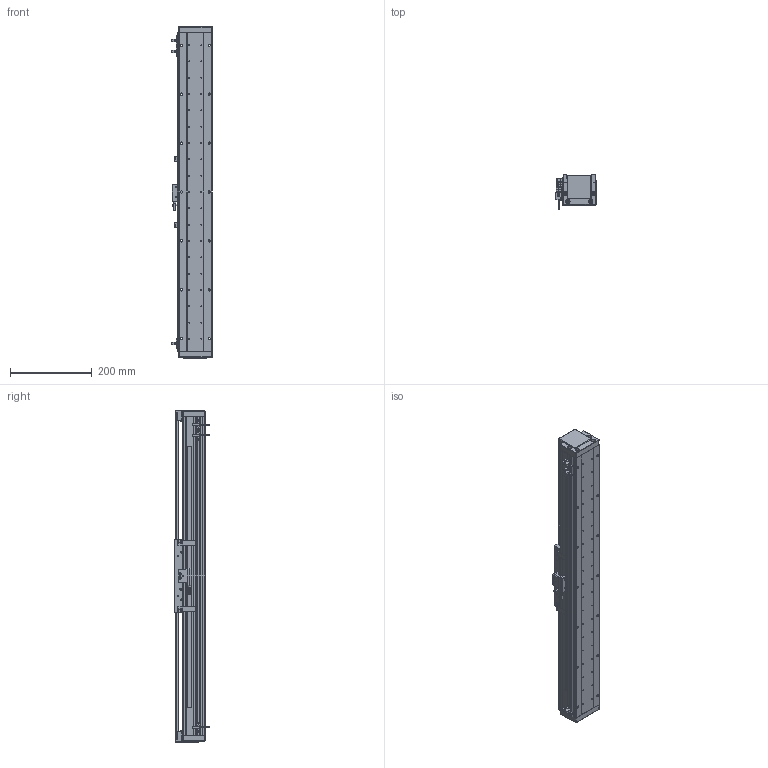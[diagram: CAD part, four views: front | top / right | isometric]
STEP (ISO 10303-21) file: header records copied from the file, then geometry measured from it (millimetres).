
FILE_DESCRIPTION (( 'STEP AP203' ), '1' );
FILE_NAME ('DA-A82-B2-T560-C010-0.2 眻盄萇儂.STEP', '2025-08-13T03:05:32', ( '' ), ( '' ), 'SwSTEP 2.0', 'SolidWorks 2019', '' );
FILE_SCHEMA (( 'CONFIG_CONTROL_DESIGN' ));
Length unit declared in the file: millimetre
Products named in the file (21): 复件 DA95-GT-T-00 底座钢轨^IU-AU82-L 底座导轨; 葩璃 鞠褒情蹟譫 M3^DA-A82-B2-T-C010-0.2; AU82-HT-M-00 賑雄怢啣; 复件 DA82-DG-H-N-00 端盖^DA-A82-B2-T-C010-0.2(默认_按加工_); 葩璃 DA60-DMT-DTJ-00 黍杅芛盓殤^DA-A82-B2-T-C010-0.2; 葩璃 PM-T45^DA-A82-B2-T-C010-0.2; IU-AU82-L-00 菁釱(L780); IU-AU82-L 菁釱絳寢; 复件 复件 DA82-XJ-00 缓冲橡胶^DA-A82-B2-T-C010-0.2; 复件 纯铜油杯 6x6mm^AU82-M 滚珠滑台; 葩璃 DMT-010 1米m 0.2M^DA-A82-B2-T-C010-0.2; 葩璃 DA82-T-002-00 裔啣^DA-A82-B2-T-C010-0.2; AU82-M-00 珨极趙賑雄怢啣; DA-A82-B2-T560-C010-0.2 眻盄萇儂; DA-A60-GYP-DMT-00 光电感应片^DA-A82-B2-T-C010-0.2(默认); 复件 DA95-B2-GT-00 滑块钢轨^AU82-M-00 一体化滑动台板; 葩璃 XD-U-02  棠掑喜^DA-A82-B2-T-C010-0.2; 葩璃 DA82-B2-DP-00 結え^AU82-M 幗紩賑怢; 葩璃 BKM01-W040-TRL^DA-A82-B2-T-C010-0.2; AU82-M 幗紩賑怢; ｸｴｼ BKM02-W040-C1-TP-DA-3.0 ﾖｱﾏﾟｵ扈巐ｯﾗﾓ^DA-A82-B2-T-C010-0.2
Assembly tree (36 placements, depth 4):
  DA-A82-B2-T560-C010-0.2 眻盄萇儂
    IU-AU82-L 菁釱絳寢
      IU-AU82-L-00 菁釱(L780)
      复件 DA95-GT-T-00 底座钢轨^IU-AU82-L 底座导轨  x2
    AU82-M 幗紩賑怢
      AU82-M-00 珨极趙賑雄怢啣
        AU82-HT-M-00 賑雄怢啣
        复件 DA95-B2-GT-00 滑块钢轨^AU82-M-00 一体化滑动台板  x4
      葩璃 DA82-B2-DP-00 結え^AU82-M 幗紩賑怢  x2
      复件 纯铜油杯 6x6mm^AU82-M 滚珠滑台  x2
    葩璃 DA60-DMT-DTJ-00 黍杅芛盓殤^DA-A82-B2-T-C010-0.2
    葩璃 DMT-010 1米m 0.2M^DA-A82-B2-T-C010-0.2
    DA-A60-GYP-DMT-00 光电感应片^DA-A82-B2-T-C010-0.2(默认)  x2
    ｸｴｼ BKM02-W040-C1-TP-DA-3.0 ﾖｱﾏﾟｵ扈巐ｯﾗﾓ^DA-A82-B2-T-C010-0.2
    复件 复件 DA82-XJ-00 缓冲橡胶^DA-A82-B2-T-C010-0.2  x2
    复件 DA82-DG-H-N-00 端盖^DA-A82-B2-T-C010-0.2(默认_按加工_)  x2
    葩璃 DA82-T-002-00 裔啣^DA-A82-B2-T-C010-0.2
    葩璃 BKM01-W040-TRL^DA-A82-B2-T-C010-0.2
    葩璃 PM-T45^DA-A82-B2-T-C010-0.2  x3
    葩璃 XD-U-02  棠掑喜^DA-A82-B2-T-C010-0.2
    葩璃 鞠褒情蹟譫 M3^DA-A82-B2-T-C010-0.2  x6
Bounding box: 98.95 x 87.2 x 814 mm (x, y, z)
Volume: 2737940.5 mm3; surface area: 781824.4 mm2
Topology: 40 solids, 64 shells, 2009 faces, 5230 edges, 3252 vertices
Faces by surface type: cylinder 907, plane 794, cone 252, torus 38, bspline 12, sphere 6
Entity records: 52767 total; most frequent: CARTESIAN_POINT 11541, DIRECTION 8302, ORIENTED_EDGE 7782, EDGE_CURVE 3891, AXIS2_PLACEMENT_3D 3126, VERTEX_POINT 2519, LINE 2050, VECTOR 2050
